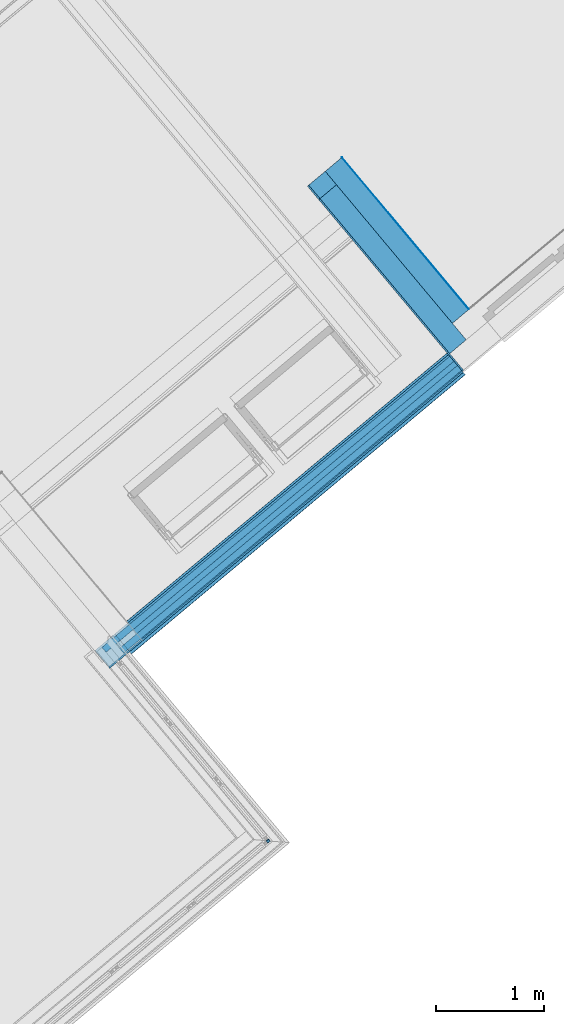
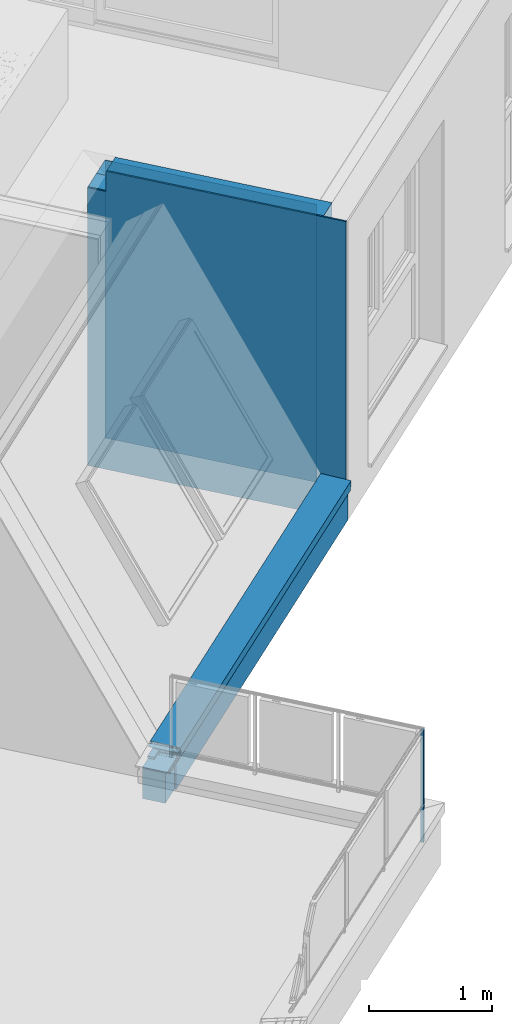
# One storey, part 28 of 58: 12 building element parts, 3 elements without a shape of their own.
"""IFC4 building model written with IfcOpenShell, lengths in metres."""

from ifc_helpers import new_model, entity, si_unit, converted_unit, derived_unit, direction, frame, origin_with_axes, place, context, subcontext, project, spatial, polygons, material, type_object, element, aggregate, save


model = new_model("IFC4")

# Units and contexts
model_context = context("Model", 3, precision=1e-05, world=origin_with_axes(), true_north=direction((0.0, 1.0)))
body_context = subcontext(model_context, "Body", "Model", "MODEL_VIEW")
ifc_project = project(units=[si_unit("LENGTHUNIT", "METRE"), si_unit("AREAUNIT", "SQUARE_METRE"), si_unit("VOLUMEUNIT", "CUBIC_METRE"), converted_unit("PLANEANGLEUNIT", "DEGREE", entity("IfcPlaneAngleMeasure", 0.0174532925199), si_unit("PLANEANGLEUNIT", "RADIAN"), dimensions=[0, 0, 0, 0, 0, 0, 0]), converted_unit("TIMEUNIT", "Year", entity("IfcTimeMeasure", 31556926.0), si_unit("TIMEUNIT", "SECOND"), dimensions=[0, 0, 1, 0, 0, 0, 0]), si_unit("MASSUNIT", "GRAM", prefix="KILO"), si_unit("THERMODYNAMICTEMPERATUREUNIT", "DEGREE_CELSIUS"), si_unit("LUMINOUSINTENSITYUNIT", "LUMEN"), si_unit("ENERGYUNIT", "JOULE", prefix="MEGA"), derived_unit("THERMALCONDUCTANCEUNIT", [(si_unit("POWERUNIT", "WATT"), 1), (si_unit("LENGTHUNIT", "METRE"), -1), (si_unit("THERMODYNAMICTEMPERATUREUNIT", "KELVIN"), -1)]), derived_unit("SPECIFICHEATCAPACITYUNIT", [(si_unit("ENERGYUNIT", "JOULE"), 1), (si_unit("MASSUNIT", "GRAM", prefix="KILO"), -1), (si_unit("THERMODYNAMICTEMPERATUREUNIT", "KELVIN"), -1)]), derived_unit("MASSDENSITYUNIT", [(si_unit("MASSUNIT", "GRAM", prefix="KILO"), 1), (si_unit("VOLUMEUNIT", "CUBIC_METRE"), -1)])], contexts=[model_context])

# Site, building, storey
site_placement = place(None, frame((-0.00153261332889, -0.00661245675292, 0.0), z_axis=(0.0, 0.0, 1.0), x_axis=(1.0, 0.0, 0.0)))
site = spatial("IfcSite", under=ifc_project, at=site_placement, Name="Site", CompositionType="ELEMENT")
building_placement = place(site_placement, origin_with_axes())
building = spatial("IfcBuilding", under=site, at=building_placement, Name="Building", CompositionType="ELEMENT")
storey_placement = place(building_placement, frame((0.0, 0.0, 5.7), z_axis=(0.0, 0.0, 1.0), x_axis=(1.0, 0.0, 0.0)))
storey = spatial("IfcBuildingStorey", under=building, at=storey_placement, Name="DG1", CompositionType="ELEMENT", Elevation=5.7)

# Wall, building element parts
wall_type_1 = type_object("IfcWallType", Name="AW EG 420", PredefinedType="NOTDEFINED")
wall_1_placement = place(storey_placement, frame((9.16225269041, 16.7349391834, 0.0), z_axis=(0.0, 0.0, 1.0), x_axis=(-0.641709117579, 0.766948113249, 0.0)))
wall_1 = element("IfcWall", 1, at=wall_1_placement, inside=storey, type_object=wall_type_1, Name="Wand-002", PredefinedType="NOTDEFINED")
ifc_material_1 = material(Name="Zementputz")
building_element_part_1_placement = place(wall_1_placement, origin_with_axes())
building_element_part_1 = element("IfcBuildingElementPart", 2, at=building_element_part_1_placement, material=ifc_material_1, Name="Zementputz", PredefinedType="NOTDEFINED", context=body_context, shape_type="Tessellation", body=[
    polygons([(2.25613789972, 0.405, 2.76), (2.09288288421, 0.405, 2.76), (2.09288288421, 0.405, 2.96), (0.0149999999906, 0.405, 2.96), (0.0149999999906, 0.405, 0.0), (2.25613789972, 0.405, 0.0), (2.25613789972, 0.42, 2.76), (2.09288288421, 0.42, 2.76), (2.09288288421, 0.42, 2.96), (0.0149999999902, 0.42, 2.96), (0.0149999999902, 0.42, 0.0), (2.25613789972, 0.42, 0.0)], [[[1, 2, 3, 4, 5, 6]], [[2, 1, 7, 8]], [[9, 3, 2, 8]], [[3, 9, 10, 4]], [[5, 4, 10, 11]], [[11, 12, 6, 5]], [[7, 1, 6, 12]], [[8, 7, 12, 11, 10, 9]]], closed=True),
])
ifc_material_2 = material(Name="EPS 1")
building_element_part_2_placement = place(wall_1_placement, origin_with_axes())
building_element_part_2 = element("IfcBuildingElementPart", 3, at=building_element_part_2_placement, material=ifc_material_2, Name="EPS 1", PredefinedType="NOTDEFINED", context=body_context, shape_type="Tessellation", body=[
    polygons([(2.25613789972, 0.205, 2.76), (2.09288288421, 0.204999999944, 2.76), (2.09288288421, 0.204999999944, 2.96), (0.214999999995, 0.205, 2.96), (0.214999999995, 0.205, 0.0), (2.25613789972, 0.205, 0.0), (2.25613789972, 0.405, 2.76), (2.09288288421, 0.405, 2.76), (2.09288288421, 0.405, 2.96), (0.214999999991, 0.405, 2.96), (0.214999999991, 0.405, 0.0), (2.25613789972, 0.405, 0.0)], [[[1, 2, 3, 4, 5, 6]], [[2, 1, 7, 8]], [[9, 3, 2, 8]], [[3, 9, 10, 4]], [[5, 4, 10, 11]], [[11, 12, 6, 5]], [[7, 1, 6, 12]], [[8, 7, 12, 11, 10, 9]]], closed=True),
])
ifc_material_3 = material(Name="Stahlbeton Wand")
building_element_part_3_placement = place(wall_1_placement, origin_with_axes())
building_element_part_3 = element("IfcBuildingElementPart", 4, at=building_element_part_3_placement, material=ifc_material_3, Name="Stahlbeton Wand", PredefinedType="NOTDEFINED", context=body_context, shape_type="Tessellation", body=[
    polygons([(2.25613789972, 0.005, 2.76), (0.415, 0.005, 2.76), (0.415, 0.005, 0.0), (2.25613789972, 0.005, 0.0), (2.25613789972, 0.205, 2.76), (2.09288288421, 0.204999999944, 2.76), (0.414999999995, 0.204999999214, 2.76), (0.414999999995, 0.205, 0.0), (2.25613789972, 0.205, 0.0)], [[[1, 2, 3, 4]], [[2, 1, 5, 6, 7]], [[2, 7, 8, 3]], [[8, 9, 4, 3]], [[5, 1, 4, 9]], [[6, 5, 9, 8, 7]]], closed=True),
])
building_element_part_4_placement = place(wall_1_placement, origin_with_axes())
building_element_part_4 = element("IfcBuildingElementPart", 5, at=building_element_part_4_placement, material=ifc_material_1, Name="Zementputz", PredefinedType="NOTDEFINED", context=body_context, shape_type="Tessellation", body=[
    polygons([(2.25613789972, 0.0, 2.76), (0.42, 0.0, 2.76), (0.42, 0.0, 0.0), (2.25613789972, 0.0, 0.0), (2.25613789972, 0.005, 2.76), (0.42, 0.005, 2.76), (0.42, 0.005, 0.0), (2.25613789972, 0.005, 0.0)], [[[1, 2, 3, 4]], [[2, 1, 5, 6]], [[2, 6, 7, 3]], [[7, 8, 4, 3]], [[5, 1, 4, 8]], [[5, 8, 7, 6]]], closed=True),
])
aggregate(wall_1, [building_element_part_1, building_element_part_2, building_element_part_3, building_element_part_4])

wall_type_2 = type_object("IfcWallType", Name="Bauteil - Attika Abschluss wand 264 x 407", PredefinedType="NOTDEFINED")
wall_2_placement = place(storey_placement, frame((5.41721401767, 13.8814716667, -0.2), z_axis=(0.0, 0.0, 1.0), x_axis=(0.766912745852, 0.641751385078, 0.0)))
wall_2 = element("IfcWall", 6, at=wall_2_placement, inside=storey, type_object=wall_type_2, Name="Wand-003", PredefinedType="NOTDEFINED")
ifc_material_4 = material(Name="Vollholz")
building_element_part_5_placement = place(wall_2_placement, origin_with_axes())
building_element_part_5 = element("IfcBuildingElementPart", 7, at=building_element_part_5_placement, material=ifc_material_4, Name="Vollholz", PredefinedType="NOTDEFINED", context=body_context, shape_type="Tessellation", body=[
    polygons([(0.189993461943, -0.019237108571, 0.584512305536), (0.189996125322, -0.0352103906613, 0.584015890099), (0.190003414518, -0.0789260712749, 0.582657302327), (4.28334647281, -0.0789260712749, 0.582657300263), (4.28334647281, -0.019237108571, 0.584512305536), (0.189996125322, -0.0192353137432, 0.584015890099), (0.190003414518, -0.0192304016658, 0.582657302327), (0.130124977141, -0.0789416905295, 0.581066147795), (0.0701429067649, -0.0789416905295, 0.581066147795), (0.0701429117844, -0.0789539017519, 0.57982217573), (0.0701429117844, -0.078959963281, 0.579204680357), (0.0701429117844, -0.0789755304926, 0.577618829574), (0.0701429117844, -0.0789955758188, 0.575576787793), (0.0701429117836, -0.07914848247, 0.560000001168), (4.28334647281, -0.07914848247, 0.560000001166), (0.190007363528, -0.0789332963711, 0.581921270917), (0.190011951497, -0.0789416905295, 0.581066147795), (4.28334647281, -0.01914848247, 0.560000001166), (0.0701429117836, -0.01914848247, 0.560000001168), (0.0701429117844, -0.0192048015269, 0.575576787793), (0.0701429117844, -0.0192121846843, 0.577618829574), (0.0701429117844, -0.0192179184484, 0.579204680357), (0.0701429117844, -0.0192201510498, 0.57982217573), (0.0701429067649, -0.0192246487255, 0.581066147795), (0.130124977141, -0.0192246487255, 0.581066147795), (0.190011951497, -0.0192246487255, 0.581066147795), (0.190007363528, -0.0192277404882, 0.581921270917)], [[[1, 2, 3, 4, 5]], [[6, 2, 1]], [[2, 6, 7, 3]], [[8, 9, 10, 11, 12, 13, 14, 15, 4, 3, 16, 17]], [[5, 4, 15, 18]], [[6, 1, 5, 18, 19, 20, 21, 22, 23, 24, 25, 26, 27, 7]], [[3, 7, 27, 16]], [[24, 9, 8, 25]], [[24, 23, 10, 9]], [[10, 23, 22, 11]], [[11, 22, 21, 12]], [[13, 12, 21, 20]], [[19, 14, 13, 20]], [[19, 18, 15, 14]], [[17, 16, 27, 26]], [[26, 25, 8, 17]]], closed=True),
])
building_element_part_6_placement = place(wall_2_placement, origin_with_axes())
building_element_part_6 = element("IfcBuildingElementPart", 8, at=building_element_part_6_placement, material=ifc_material_2, Name="EPS 1", PredefinedType="NOTDEFINED", context=body_context, shape_type="Tessellation", body=[
    polygons([(2.39909425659e-10, -2.39909425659e-10, 0.499999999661), (2.39909425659e-10, -0.19999996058, 0.499999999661), (4.28334647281, -0.19999996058, 0.499999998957), (4.28334647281, -2.39909425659e-10, 0.499999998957), (2.39909425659e-10, -0.19999996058, 0.498951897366), (2.39911202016e-10, -2.39909425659e-10, 0.498951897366), (2.39909425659e-10, -0.19999996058, 0.498915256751), (2.39909425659e-10, -0.19999996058, 0.496604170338), (2.39909425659e-10, -0.19999996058, 0.334999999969), (-6.37704999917e-10, -0.19999996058, 0.199999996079), (4.28334647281, -0.19999996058, 0.2), (4.28334647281, -2.39909425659e-10, 0.2), (-6.37704999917e-10, -2.39910313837e-10, 0.199999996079), (2.39911202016e-10, -2.39909425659e-10, 0.334999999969), (2.39911202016e-10, -2.39909425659e-10, 0.496604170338), (2.39911202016e-10, -2.39909425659e-10, 0.498915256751)], [[[1, 2, 3, 4]], [[5, 2, 1, 6]], [[2, 5, 7, 8, 9, 10, 11, 3]], [[11, 12, 4, 3]], [[6, 1, 4, 12, 13, 14, 15, 16]], [[5, 6, 16, 7]], [[7, 16, 15, 8]], [[8, 15, 14, 9]], [[9, 14, 13, 10]], [[11, 10, 13, 12]]], closed=True),
])
ifc_material_5 = material(Name="Brettschichtholz")
building_element_part_7_placement = place(wall_2_placement, origin_with_axes())
building_element_part_7 = element("IfcBuildingElementPart", 9, at=building_element_part_7_placement, material=ifc_material_5, Name="Brettschichtholz", PredefinedType="NOTDEFINED", context=body_context, shape_type="Tessellation", body=[
    polygons([(0.241356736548, -0.190124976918, 0.5600000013), (0.241356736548, -0.214999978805, 0.5600000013), (4.28334647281, -0.214999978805, 0.560000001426), (4.28334647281, -0.190124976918, 0.560000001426), (0.241354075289, -0.214999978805, 0.519273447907), (0.241356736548, -0.13012497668, 0.5600000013), (0.241356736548, -0.0791484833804, 0.5600000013), (0.241356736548, -0.0191484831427, 0.5600000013), (0.241356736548, 2.37772468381e-09, 0.5600000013), (0.241354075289, 2.37772646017e-09, 0.519273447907), (0.233490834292, -0.214999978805, 0.5192734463), (0.241353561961, -0.214999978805, 0.511410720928), (0.239439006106, -0.214999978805, 0.511410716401), (0.214999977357, -0.214999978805, 0.511410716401), (0.214999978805, -0.214999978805, 0.509648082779), (0.0, -0.214999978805, 0.509648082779), (2.39907649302e-10, -0.214999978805, 0.509099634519), (2.39907649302e-10, -0.214999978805, 0.506731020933), (2.39907649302e-10, -0.214999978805, 0.501284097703), (2.39911202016e-10, -0.214999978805, 0.499999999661), (4.28334647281, -0.214999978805, 0.500000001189), (4.28334647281, -0.0191484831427, 0.560000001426), (4.28334647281, -0.0791484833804, 0.560000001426), (4.28334647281, -0.13012497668, 0.560000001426), (4.28334647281, 2.37772734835e-09, 0.500000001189), (4.28334647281, 2.37772734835e-09, 0.560000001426), (2.39907649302e-10, 2.37772557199e-09, 0.499999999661), (2.39907649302e-10, 2.37772557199e-09, 0.501284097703), (2.39907649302e-10, 2.37772557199e-09, 0.506731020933), (2.39907649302e-10, 2.37772557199e-09, 0.509099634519), (0.0, 2.37772557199e-09, 0.509648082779), (0.214999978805, 2.37772646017e-09, 0.509648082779), (0.214999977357, 2.37772646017e-09, 0.511410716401), (0.239439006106, 2.37772557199e-09, 0.511410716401), (0.241353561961, 2.37772646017e-09, 0.511410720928), (0.233490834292, 2.37772646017e-09, 0.5192734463)], [[[1, 2, 3, 4]], [[5, 2, 1, 6, 7, 8, 9, 10]], [[5, 11, 12, 13, 14, 15, 16, 17, 18, 19, 20, 21, 3, 2]], [[22, 23, 24, 4, 3, 21, 25, 26]], [[6, 1, 4, 24]], [[7, 6, 24, 23]], [[8, 7, 23, 22]], [[9, 8, 22, 26]], [[10, 9, 26, 25, 27, 28, 29, 30, 31, 32, 33, 34, 35, 36]], [[11, 5, 10, 36]], [[11, 36, 35, 12]], [[13, 12, 35, 34]], [[13, 34, 33, 14]], [[14, 33, 32, 15]], [[16, 15, 32, 31]], [[16, 31, 30, 17]], [[17, 30, 29, 18]], [[18, 29, 28, 19]], [[19, 28, 27, 20]], [[20, 27, 25, 21]]], closed=True),
])
building_element_part_8_placement = place(wall_2_placement, origin_with_axes())
building_element_part_8 = element("IfcBuildingElementPart", 10, at=building_element_part_8_placement, material=ifc_material_4, Name="Vollholz", PredefinedType="NOTDEFINED", context=body_context, shape_type="Tessellation", body=[
    polygons([(0.190011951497, -0.130124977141, 0.581066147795), (0.190018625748, -0.170152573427, 0.57982217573), (0.19002193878, -0.19002193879, 0.579204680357), (4.28334647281, -0.19002193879, 0.57920467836), (4.28334647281, -0.130124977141, 0.581066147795), (0.190018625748, -0.130124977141, 0.57982217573), (0.19002193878, -0.130124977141, 0.579204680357), (0.190030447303, -0.190030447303, 0.577618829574), (0.190041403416, -0.190041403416, 0.575576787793), (0.190124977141, -0.190124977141, 0.560000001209), (4.28334647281, -0.190124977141, 0.560000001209), (4.28334647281, -0.130124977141, 0.560000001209), (0.190124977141, -0.130124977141, 0.560000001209), (0.190041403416, -0.130124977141, 0.575576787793), (0.190030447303, -0.130124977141, 0.577618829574)], [[[1, 2, 3, 4, 5]], [[6, 2, 1]], [[2, 6, 7, 3]], [[4, 3, 8, 9, 10, 11]], [[11, 12, 5, 4]], [[6, 1, 5, 12, 13, 14, 15, 7]], [[15, 8, 3, 7]], [[9, 8, 15, 14]], [[9, 14, 13, 10]], [[13, 12, 11, 10]]], closed=True),
])
building_element_part_9_placement = place(wall_2_placement, origin_with_axes())
building_element_part_9 = element("IfcBuildingElementPart", 11, at=building_element_part_9_placement, material=ifc_material_1, Name="Zementputz", PredefinedType="NOTDEFINED", context=body_context, shape_type="Tessellation", body=[
    polygons([(2.39909425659e-10, -0.199999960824, 0.499999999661), (2.39911202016e-10, -0.214999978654, 0.499999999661), (4.28334647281, -0.214999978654, 0.499999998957), (4.28334647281, -0.199999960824, 0.499999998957), (2.39909425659e-10, -0.214999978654, 0.498951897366), (2.39909425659e-10, -0.199999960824, 0.498951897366), (0.199999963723, -0.214999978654, 0.498951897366), (0.214999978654, -0.214999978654, 0.498951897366), (0.214999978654, -0.214999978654, 0.498915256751), (0.214999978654, -0.214999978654, 0.496604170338), (0.214999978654, -0.214999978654, 0.334999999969), (0.214999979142, -0.214999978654, 0.2), (4.28334647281, -0.214999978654, 0.2), (4.28334647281, -0.199999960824, 0.2), (0.214999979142, -0.199999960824, 0.2), (0.214999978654, -0.199999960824, 0.334999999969), (0.214999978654, -0.199999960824, 0.496604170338), (0.214999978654, -0.199999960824, 0.498915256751), (0.214999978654, -0.199999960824, 0.498951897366), (0.199999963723, -0.199999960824, 0.498951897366)], [[[1, 2, 3, 4]], [[5, 2, 1, 6]], [[2, 5, 7, 8, 9, 10, 11, 12, 13, 3]], [[3, 13, 14, 4]], [[6, 1, 4, 14, 15, 16, 17, 18, 19, 20]], [[5, 6, 20, 7]], [[8, 7, 20, 19]], [[9, 8, 19, 18]], [[9, 18, 17, 10]], [[10, 17, 16, 11]], [[11, 16, 15, 12]], [[12, 15, 14, 13]]], closed=True),
])
ifc_material_6 = material(Name="Stahl")
building_element_part_10_placement = place(wall_2_placement, origin_with_axes())
building_element_part_10 = element("IfcBuildingElementPart", 12, at=building_element_part_10_placement, material=ifc_material_6, Name="Stahl", PredefinedType="NOTDEFINED", context=body_context, shape_type="Tessellation", body=[
    polygons([(2.39909425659e-10, -0.236153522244, 0.501284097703), (2.39909425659e-10, -0.231381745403, 0.506731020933), (2.39907649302e-10, -0.229581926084, 0.506731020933), (2.39907649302e-10, -0.234353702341, 0.501284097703), (4.28334647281, -0.236153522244, 0.501284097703), (4.28334647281, -0.228826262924, 0.509648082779), (2.39911202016e-10, -0.228826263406, 0.509648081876), (2.39909425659e-10, -0.229306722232, 0.509099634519), (2.39911202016e-10, -0.228258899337, 0.509099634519), (2.39909425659e-10, -0.227851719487, 0.508706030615), (2.39909425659e-10, -0.236396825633, 0.498951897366), (2.39911202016e-10, -0.235478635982, 0.499999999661), (4.28334647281, -0.22785172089, 0.508706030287), (4.28334647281, -0.236396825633, 0.498951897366), (2.39911202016e-10, -0.23742544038, 0.499999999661), (2.39909425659e-10, -0.237510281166, 0.501284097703), (2.39911202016e-10, -0.23651376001, 0.506731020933), (2.39909425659e-10, -0.236670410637, 0.509099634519), (0.214999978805, -0.236670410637, 0.509099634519), (0.241750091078, -0.236670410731, 0.509099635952), (0.242298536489, -0.236706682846, 0.509648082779), (0.242707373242, -0.23673372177, 0.510056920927), (0.242707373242, -0.236823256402, 0.511410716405), (0.242707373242, -0.237343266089, 0.519273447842), (0.242707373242, -0.240036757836, 0.560000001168), (0.242707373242, -0.241066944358, 0.575576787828), (0.242707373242, -0.241201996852, 0.577618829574), (0.242707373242, -0.241306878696, 0.579204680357), (0.242707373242, -0.241347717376, 0.57982217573), (0.242707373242, -0.241429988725, 0.581066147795), (0.242707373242, -0.241486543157, 0.581921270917), (0.242707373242, -0.241535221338, 0.582657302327), (0.242707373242, -0.241625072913, 0.584015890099), (0.242707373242, -0.241657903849, 0.584512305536), (0.242707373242, -0.241763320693, 0.586106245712), (0.242707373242, -0.242407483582, 0.595846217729), (0.242707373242, -0.242570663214, 0.598313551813), (4.28334647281, -0.242570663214, 0.598313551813), (4.28334647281, -0.237415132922, 0.499843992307), (4.28334647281, -0.241694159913, 0.598339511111), (4.28334647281, 0.0197570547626, 0.606129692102), (4.28334647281, 0.0197167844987, 0.607483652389), (4.28334647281, -0.244007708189, 0.59962516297), (2.39911202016e-10, -0.237415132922, 0.499843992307), (0.242707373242, -0.244007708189, 0.599625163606), (0.242707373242, -0.243922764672, 0.598339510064), (0.242707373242, -0.243758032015, 0.595846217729), (0.242707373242, -0.243114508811, 0.586106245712), (0.242707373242, -0.243009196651, 0.584512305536), (0.242707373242, -0.242976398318, 0.584015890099), (0.242707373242, -0.24288663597, 0.582657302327), (0.242707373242, -0.242838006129, 0.581921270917), (0.242707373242, -0.242781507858, 0.581066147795), (0.242707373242, -0.242699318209, 0.57982217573), (0.242707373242, -0.242658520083, 0.579204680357), (0.242707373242, -0.242553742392, 0.577618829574), (0.242707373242, -0.242418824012, 0.575576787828), (0.242707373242, -0.241389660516, 0.560000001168), (0.242707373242, -0.238698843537, 0.519273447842), (0.242707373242, -0.238179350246, 0.511410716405), (0.242707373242, -0.238089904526, 0.510056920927), (0.242298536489, -0.238062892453, 0.509648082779), (0.241750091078, -0.238026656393, 0.509099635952), (0.214999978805, -0.238026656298, 0.509099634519), (2.39909425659e-10, -0.238026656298, 0.509099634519), (2.39911202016e-10, -0.237870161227, 0.506731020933), (0.242707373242, -0.241694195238, 0.598339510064), (0.242707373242, 0.0197570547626, 0.606129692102), (0.242707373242, 0.0197167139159, 0.607483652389), (0.242707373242, -0.02572104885, 0.606129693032)], [[[1, 2, 3, 4]], [[2, 1, 5, 6, 7, 8]], [[2, 8, 9, 10, 3]], [[11, 12, 4, 3, 10, 13, 14]], [[15, 16, 1, 4, 12]], [[1, 17, 18, 19, 20, 21, 22, 23, 24, 25, 26, 27, 28, 29, 30, 31, 32, 33, 34, 35, 36, 37, 38, 5]], [[39, 14, 13, 6, 5, 38, 40, 41, 42, 43]], [[9, 7, 6, 13, 10]], [[9, 8, 7]], [[11, 44, 15, 12]], [[44, 11, 14, 39]], [[15, 44, 39, 43, 45, 46, 47, 48, 49, 50, 51, 52, 53, 54, 55, 56, 57, 58, 59, 60, 61, 62, 63, 64, 65, 66, 16]], [[1, 16, 66, 17]], [[17, 66, 65, 18]], [[18, 65, 64, 19]], [[19, 64, 63, 20]], [[20, 63, 62, 21]], [[22, 21, 62, 61]], [[23, 22, 61, 60]], [[23, 60, 59, 24]], [[25, 24, 59, 58]], [[58, 57, 26, 25]], [[57, 56, 27, 26]], [[56, 55, 28, 27]], [[55, 54, 29, 28]], [[54, 53, 30, 29]], [[53, 52, 31, 30]], [[52, 51, 32, 31]], [[51, 50, 33, 32]], [[50, 49, 34, 33]], [[48, 35, 34, 49]], [[35, 48, 47, 36]], [[36, 47, 46, 67, 37]], [[37, 67, 40, 38]], [[67, 68, 41, 40]], [[68, 69, 42, 41]], [[69, 70, 45, 43, 42]], [[70, 68, 67, 46, 45]], [[69, 68, 70]]], closed=True),
])
ifc_material_7 = material(Name="Holzwerkstoff")
building_element_part_11_placement = place(wall_2_placement, origin_with_axes())
building_element_part_11 = element("IfcBuildingElementPart", 13, at=building_element_part_11_placement, material=ifc_material_7, Name="Holzwerkstoff", PredefinedType="NOTDEFINED", context=body_context, shape_type="Tessellation", body=[
    polygons([(0.239361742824, 0.0197570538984, 0.606129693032), (0.239633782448, -0.241694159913, 0.598339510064), (4.28334647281, -0.241694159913, 0.598339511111), (4.28334647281, 0.0197570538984, 0.606129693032), (0.239633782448, 0.0199991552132, 0.598339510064), (4.28334647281, -0.241050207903, 0.577618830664), (0.239720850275, -0.241616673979, 0.595846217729), (0.23999998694, -0.241368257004, 0.587852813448), (0.189984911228, -0.241313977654, 0.586106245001), (0.189993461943, -0.241264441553, 0.584512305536), (0.189996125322, -0.241249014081, 0.584015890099), (0.190003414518, -0.241206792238, 0.582657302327), (0.190007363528, -0.241183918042, 0.581921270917), (0.190011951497, -0.241157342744, 0.581066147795), (0.190018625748, -0.241118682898, 0.57982217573), (0.19002193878, -0.241099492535, 0.579204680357), (0.190030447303, -0.241050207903, 0.577618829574), (4.28334647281, -0.190021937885, 0.579204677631), (4.28334647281, -0.130124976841, 0.581066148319), (4.28334647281, -0.0789260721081, 0.582657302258), (4.28334647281, -0.0192371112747, 0.584512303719), (4.28334647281, 0.0203906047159, 0.585743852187), (0.189986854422, 0.0203906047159, 0.585743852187), (0.189984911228, 0.0203793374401, 0.586106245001), (0.23999998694, 0.0203250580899, 0.587852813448), (0.239720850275, 0.0200766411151, 0.595846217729), (0.189993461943, -0.0192371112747, 0.584512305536), (0.189996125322, -0.0352105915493, 0.584015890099), (0.190003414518, -0.0789260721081, 0.582657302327), (0.190007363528, -0.102609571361, 0.581921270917), (0.190011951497, -0.130124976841, 0.581066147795), (0.190018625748, -0.170152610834, 0.57982217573), (0.19002193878, -0.190021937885, 0.579204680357)], [[[1, 2, 3, 4]], [[5, 2, 1]], [[6, 3, 2, 7, 8, 9, 10, 11, 12, 13, 14, 15, 16, 17]], [[3, 6, 18, 19, 20, 21, 22, 4]], [[5, 1, 4, 22, 23, 24, 25, 26]], [[2, 5, 26, 7]], [[25, 8, 7, 26]], [[9, 8, 25, 24]], [[24, 23, 27, 10, 9]], [[27, 28, 11, 10]], [[28, 29, 12, 11]], [[29, 30, 13, 12]], [[13, 30, 31, 14]], [[15, 14, 31, 32]], [[32, 33, 16, 15]], [[17, 16, 33]], [[17, 33, 18, 6]], [[33, 32, 31, 19, 18]], [[30, 29, 20, 19, 31]], [[29, 28, 27, 21, 20]], [[23, 22, 21, 27]]], closed=True),
])
aggregate(wall_2, [building_element_part_5, building_element_part_6, building_element_part_7, building_element_part_8, building_element_part_9, building_element_part_10, building_element_part_11])

# Railing, building element part
railing_type = type_object("IfcRailingType", Name="Geländerart", PredefinedType="NOTDEFINED")
railing_placement = place(storey_placement, frame((-1.26757951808, 10.1438545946, 0.38), z_axis=(0.0, 0.0, 1.0), x_axis=(1.0, 0.0, 0.0)))
railing = element("IfcRailing", 14, at=railing_placement, inside=storey, type_object=railing_type, Name="Geländer - 001", PredefinedType="NOTDEFINED")
ifc_material_8 = material(Name="Aluminium")
building_element_part_12_placement = place(railing_placement, origin_with_axes())
building_element_part_12 = element("IfcBuildingElementPart", 15, at=building_element_part_12_placement, material=ifc_material_8, Name="Aluminium", PredefinedType="NOTDEFINED", context=body_context, shape_type="Tessellation", body=[
    polygons([(8.3124861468, 1.96775032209, -0.3), (8.29645632, 1.98693481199, -0.3), (8.29645632, 1.98693481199, 0.82), (8.3124861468, 1.96775032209, 0.82), (8.29330165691, 1.95172049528, -0.3), (8.2772718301, 1.97090498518, -0.3), (8.2772718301, 1.97090498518, 0.82), (8.29330165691, 1.95172049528, 0.82)], [[[1, 2, 3, 4]], [[1, 5, 6, 2]], [[2, 6, 7, 3]], [[4, 3, 7, 8]], [[5, 1, 4, 8]], [[6, 5, 8, 7]]], closed=True),
])
aggregate(railing, [building_element_part_12])

save(model, "model.ifc")
